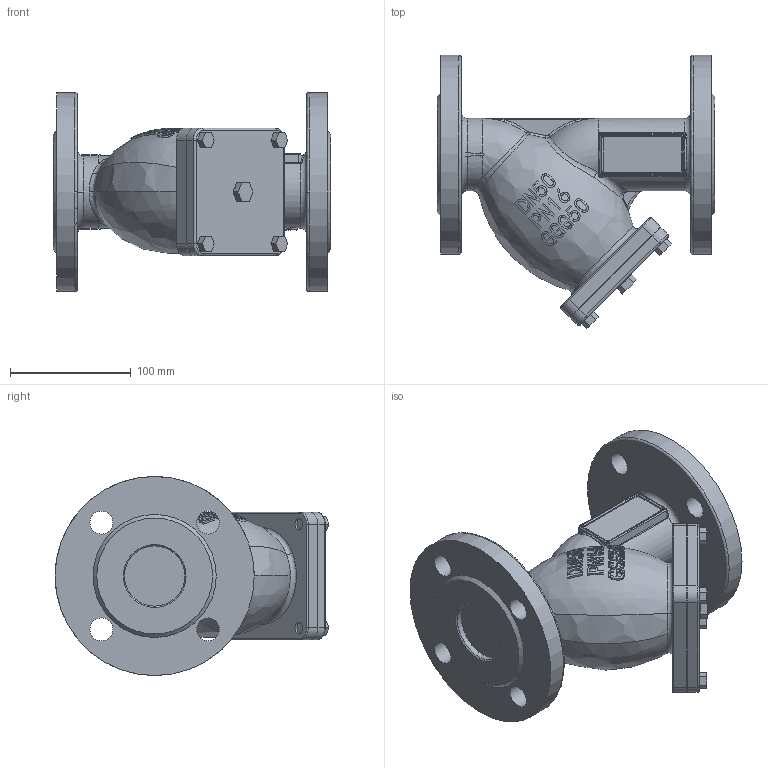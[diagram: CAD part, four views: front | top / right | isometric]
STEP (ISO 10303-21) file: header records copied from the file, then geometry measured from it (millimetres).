
FILE_DESCRIPTION (( 'STEP AP214' ), '1' );
FILE_NAME ('DN50.STEP', '2026-09-13T12:47:00', ( '' ), ( '' ), 'SwSTEP 2.0', 'SolidWorks 2024', '' );
FILE_SCHEMA (( 'AUTOMOTIVE_DESIGN' ));
Length unit declared in the file: millimetre
Products named in the file (1): DN50
Bounding box: 230 x 226.85 x 165 mm (x, y, z)
Volume: 2111738.9 mm3; surface area: 209365.7 mm2
Topology: 1 solids, 5 shells, 481 faces, 1202 edges, 773 vertices
Faces by surface type: plane 198, bspline 161, cylinder 75, torus 43, cone 4
Full cylindrical faces by diameter (mm): 9 x4, 10 x4, 14 x1, 19 x8, 50 x2, 64 x1, 165 x2
Entity records: 36615 total; most frequent: CARTESIAN_POINT 22075, ORIENTED_EDGE 2282, DIRECTION 1378, EDGE_CURVE 1141, VERTEX_POINT 756, EDGE_LOOP 591, FACE_OUTER_BOUND 515, AXIS2_PLACEMENT_3D 490
